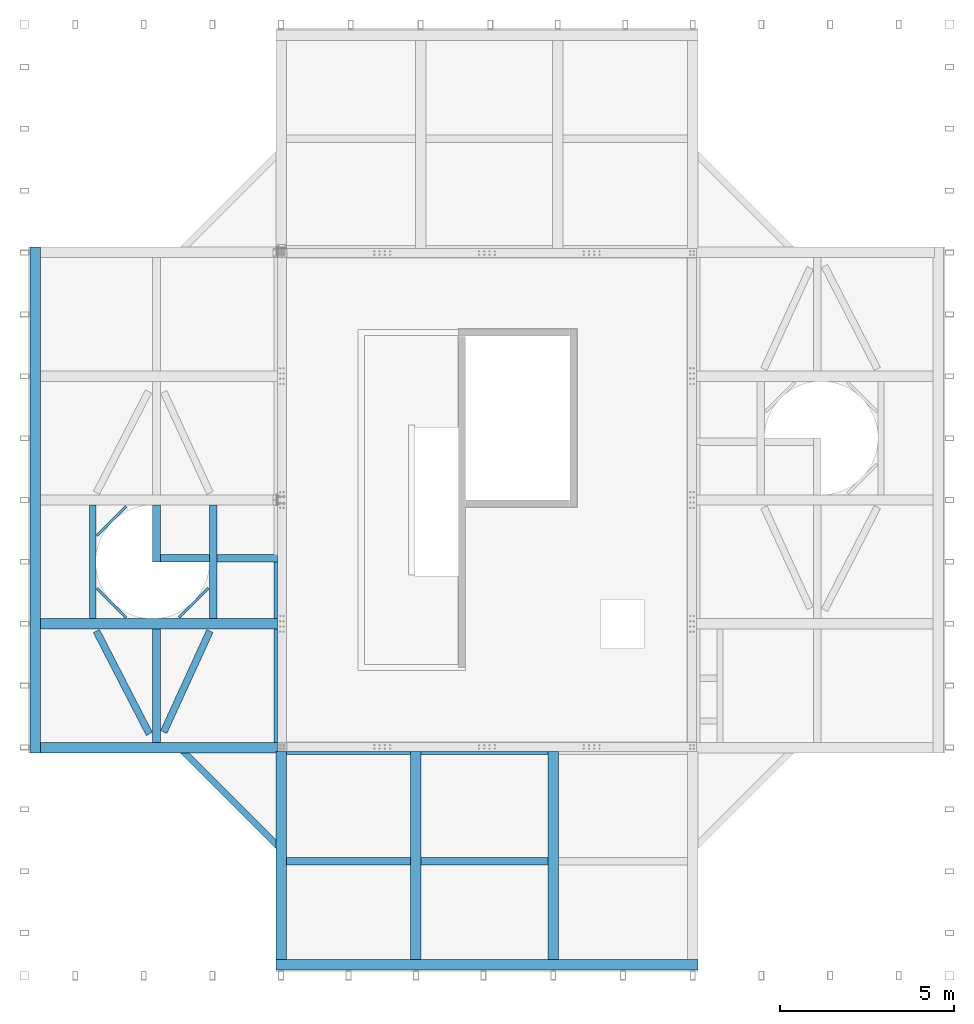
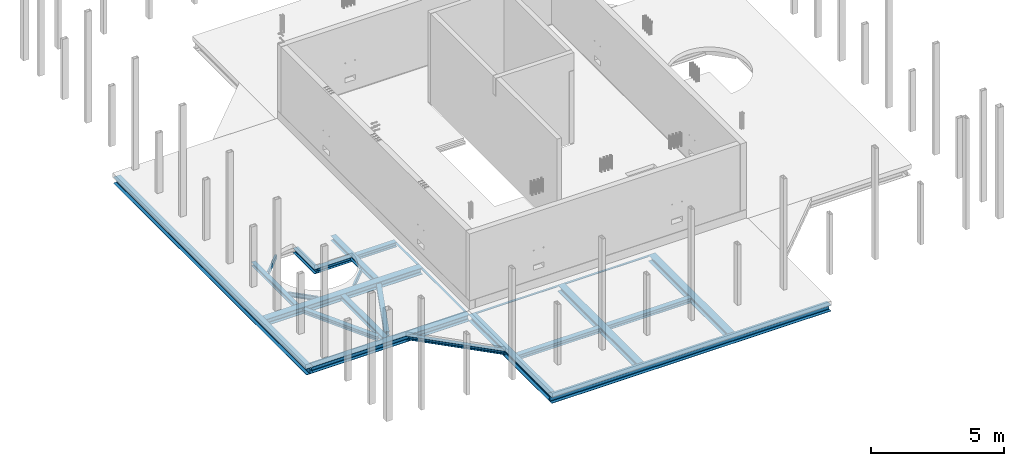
# One storey, part 7 of 16: 25 beams.
"""IFC2X3 building model written with IfcOpenShell, lengths in millimetres."""

from ifc_helpers import new_model, entity, si_unit, converted_unit, derived_unit, direction, frame, frame_2d, origin, place, context, subcontext, project, spatial, polyline, circle_curve, parameter, trimmed, segment, composite_curve, i_section, outline, extrude, clip, halfspace, material, type_object, element, save


model = new_model("IFC2X3")

# Units and contexts
model_context = context("Model", 3, precision=0.01, world=origin(), true_north=direction((6.12303176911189e-17, 1.0)))
body_context = subcontext(model_context, "Body", "Model", "MODEL_VIEW")
ifc_project = project(units=[si_unit("LENGTHUNIT", "METRE", prefix="MILLI"), si_unit("AREAUNIT", "SQUARE_METRE"), si_unit("VOLUMEUNIT", "CUBIC_METRE"), converted_unit("PLANEANGLEUNIT", "DEGREE", entity("IfcRatioMeasure", 0.0174532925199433), si_unit("PLANEANGLEUNIT", "RADIAN"), dimensions=[0, 0, 0, 0, 0, 0, 0]), si_unit("MASSUNIT", "GRAM", prefix="KILO"), derived_unit("MASSDENSITYUNIT", [(si_unit("MASSUNIT", "GRAM", prefix="KILO"), 1), (si_unit("LENGTHUNIT", "METRE"), -3)]), si_unit("TIMEUNIT", "SECOND"), si_unit("FREQUENCYUNIT", "HERTZ"), si_unit("THERMODYNAMICTEMPERATUREUNIT", "DEGREE_CELSIUS"), derived_unit("THERMALTRANSMITTANCEUNIT", [(si_unit("MASSUNIT", "GRAM", prefix="KILO"), 1), (si_unit("THERMODYNAMICTEMPERATUREUNIT", "KELVIN"), -1), (si_unit("TIMEUNIT", "SECOND"), -3)]), derived_unit("VOLUMETRICFLOWRATEUNIT", [(si_unit("LENGTHUNIT", "METRE"), 3), (si_unit("TIMEUNIT", "SECOND"), -1)]), si_unit("ELECTRICCURRENTUNIT", "AMPERE"), si_unit("ELECTRICVOLTAGEUNIT", "VOLT"), si_unit("POWERUNIT", "WATT"), si_unit("FORCEUNIT", "NEWTON", prefix="KILO"), si_unit("ILLUMINANCEUNIT", "LUX"), si_unit("LUMINOUSFLUXUNIT", "LUMEN"), si_unit("LUMINOUSINTENSITYUNIT", "CANDELA"), derived_unit("USERDEFINED", [(si_unit("MASSUNIT", "GRAM", prefix="KILO"), -1), (si_unit("LENGTHUNIT", "METRE"), -2), (si_unit("TIMEUNIT", "SECOND"), 3), (si_unit("LUMINOUSFLUXUNIT", "LUMEN"), 1)]), derived_unit("LINEARVELOCITYUNIT", [(si_unit("LENGTHUNIT", "METRE"), 1), (si_unit("TIMEUNIT", "SECOND"), -1)]), si_unit("PRESSUREUNIT", "PASCAL"), derived_unit("USERDEFINED", [(si_unit("LENGTHUNIT", "METRE"), -2), (si_unit("MASSUNIT", "GRAM", prefix="KILO"), 1), (si_unit("TIMEUNIT", "SECOND"), -2)])], contexts=[model_context])

# Site, building, storey
site_placement = place(None, origin())
site = spatial("IfcSite", under=ifc_project, at=site_placement, Name="Default", CompositionType="ELEMENT")
building_placement = place(site_placement, origin())
building = spatial("IfcBuilding", under=site, at=building_placement, Name="niet gebruiken", CompositionType="ELEMENT")
storey_placement = place(building_placement, frame((0.0, 0.0, 183150.0)))
storey = spatial("IfcBuildingStorey", under=building, at=storey_placement, Name="58 achtenvijftigste verdieping", CompositionType="ELEMENT", Elevation=183150.0)

# Beams
ifc_material = material(Name="NLRS_h2_staal")
beam_type_1 = type_object("IfcBeamType", Name="NLRS_28.11_SF_WPB_stalen ligger HEA_gen:ligger HEA 200", PredefinedType="BEAM")
beam_1_placement = place(storey_placement, frame((130455.0, 13950.0, -570.0), z_axis=(0.0, 0.0, 1.0), x_axis=(0.457206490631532, -0.889360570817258, 0.0)))
element("IfcBeam", 1, at=beam_1_placement, inside=storey, type_object=beam_type_1, material=ifc_material, Name="NLRS_28.11_SF_WPB_stalen ligger HEA_gen:ligger HEA 200", ObjectType="NLRS_28.11_SF_WPB_stalen ligger HEA_gen:ligger HEA 200", context=body_context, shape_type="SweptSolid", body=[
    extrude(i_section(OverallWidth=199.999999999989, OverallDepth=189.999999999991, WebThickness=6.50000000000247, FlangeThickness=9.99999999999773, FilletRadius=17.9999999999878, at=frame_2d((0.0, 1.83746351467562e-11), x_axis=(0.0, 1.0))), frame((232.768952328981, 0.0, -95.0), z_axis=(1.0, 0.0, 0.0), x_axis=(0.0, 0.0, -1.0)), (0.0, 0.0, 1.0), 3313.79396714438),
])
beam_2_placement = place(storey_placement, frame((133905.0, 13950.0, -570.0), z_axis=(0.0, 0.0, 1.0), x_axis=(-0.416213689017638, -0.90926682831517, 0.0)))
element("IfcBeam", 2, at=beam_2_placement, inside=storey, type_object=beam_type_1, material=ifc_material, Name="NLRS_28.11_SF_WPB_stalen ligger HEA_gen:ligger HEA 200", ObjectType="NLRS_28.11_SF_WPB_stalen ligger HEA_gen:ligger HEA 200", context=body_context, shape_type="SweptSolid", body=[
    extrude(i_section(OverallWidth=199.999999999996, OverallDepth=189.999999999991, WebThickness=6.49999999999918, FlangeThickness=9.99999999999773, FilletRadius=17.9999999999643, at=frame_2d((0.0, 3.69055896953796e-11), x_axis=(0.0, 1.0))), frame((223.44272472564, 0.0, -95.0), z_axis=(1.0, 0.0, 0.0), x_axis=(0.0, 0.0, -1.0)), (0.0, 0.0, 1.0), 3184.87253634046),
])
beam_type_2 = type_object("IfcBeamType", Name="NLRS_28.11_SF_WPB_stalen ligger HEA_gen:ligger HEA 220", PredefinedType="BEAM")
beam_3_placement = place(storey_placement, frame((133905.0, 17350.0, -570.0), z_axis=(0.0, 0.0, 1.0), x_axis=(0.0, -1.0, 0.0)))
element("IfcBeam", 3, at=beam_3_placement, inside=storey, type_object=beam_type_2, material=ifc_material, Name="NLRS_28.11_SF_WPB_stalen ligger HEA_gen:ligger HEA 220", ObjectType="NLRS_28.11_SF_WPB_stalen ligger HEA_gen:ligger HEA 220", context=body_context, shape_type="SweptSolid", body=[
    extrude(i_section(OverallWidth=220.000000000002, OverallDepth=209.999999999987, WebThickness=7.00000000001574, FlangeThickness=11.0000000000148, FilletRadius=17.9999999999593, at=frame_2d((-3.46531692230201e-11, -1.73301373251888e-11), x_axis=(0.0, 1.0))), frame((0.0, 0.0, -105.0), z_axis=(1.0, 0.0, 0.0), x_axis=(0.0, 0.0, -1.0)), (0.0, 0.0, 1.0), 3250.00000000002),
])
beam_4_placement = place(storey_placement, frame((132280.0, 17350.0, -570.0), z_axis=(0.0, 0.0, 1.0), x_axis=(0.0, -1.0, 0.0)))
element("IfcBeam", 4, at=beam_4_placement, inside=storey, type_object=beam_type_2, material=ifc_material, Name="NLRS_28.11_SF_WPB_stalen ligger HEA_gen:ligger HEA 220", ObjectType="NLRS_28.11_SF_WPB_stalen ligger HEA_gen:ligger HEA 220", context=body_context, shape_type="SweptSolid", body=[
    extrude(i_section(OverallWidth=220.000000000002, OverallDepth=209.999999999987, WebThickness=7.00000000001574, FlangeThickness=11.0000000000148, FilletRadius=17.9999999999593, at=frame_2d((-3.46531692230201e-11, 1.73301373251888e-11), x_axis=(0.0, 1.0))), frame((0.0, 0.0, -105.0), z_axis=(1.0, 0.0, 0.0), x_axis=(0.0, 0.0, -1.0)), (0.0, 0.0, 1.0), 1625.0),
])
beam_5_placement = place(storey_placement, frame((132390.0, 15835.0, -570.0)))
element("IfcBeam", 5, at=beam_5_placement, inside=storey, type_object=beam_type_2, material=ifc_material, Name="NLRS_28.11_SF_WPB_stalen ligger HEA_gen:ligger HEA 220", ObjectType="NLRS_28.11_SF_WPB_stalen ligger HEA_gen:ligger HEA 220", context=body_context, shape_type="SweptSolid", body=[
    extrude(i_section(OverallWidth=220.000000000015, OverallDepth=209.999999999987, WebThickness=6.99999999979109, FlangeThickness=11.0000000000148, FilletRadius=17.9999999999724, at=frame_2d((-3.46531692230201e-11, -1.08713038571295e-12), x_axis=(0.0, 1.0))), frame((0.0, 0.0, -105.0), z_axis=(1.0, 0.0, 0.0), x_axis=(0.0, 0.0, -1.0)), (0.0, 0.0, 1.0), 1405.00000000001),
])
beam_6_placement = place(storey_placement, frame((134015.0, 15835.0, -570.0)))
element("IfcBeam", 6, at=beam_6_placement, inside=storey, type_object=beam_type_2, material=ifc_material, Name="NLRS_28.11_SF_WPB_stalen ligger HEA_gen:ligger HEA 220", ObjectType="NLRS_28.11_SF_WPB_stalen ligger HEA_gen:ligger HEA 220", context=body_context, shape_type="SweptSolid", body=[
    extrude(i_section(OverallWidth=220.000000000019, OverallDepth=209.999999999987, WebThickness=6.99999999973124, FlangeThickness=11.0000000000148, FilletRadius=17.9999999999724, at=frame_2d((-3.46531692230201e-11, -3.24718030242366e-12), x_axis=(0.0, 1.0))), frame((0.0, 0.0, -105.0), z_axis=(1.0, 0.0, 0.0), x_axis=(0.0, 0.0, -1.0)), (0.0, 0.0, 1.0), 1735.00000000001),
])
beam_7_placement = place(storey_placement, frame((139566.666666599, 7145.0, -570.0), z_axis=(0.0, 0.0, 1.0), x_axis=(-1.0, 0.0, 0.0)))
element("IfcBeam", 7, at=beam_7_placement, inside=storey, type_object=beam_type_2, material=ifc_material, Name="NLRS_28.11_SF_WPB_stalen ligger HEA_gen:ligger HEA 220", ObjectType="NLRS_28.11_SF_WPB_stalen ligger HEA_gen:ligger HEA 220", context=body_context, shape_type="SweptSolid", body=[
    extrude(i_section(OverallWidth=219.999999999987, OverallDepth=209.999999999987, WebThickness=7.00000000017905, FlangeThickness=10.9999999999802, FilletRadius=17.9999999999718, at=frame_2d((-3.46531692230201e-11, -1.08713038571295e-12), x_axis=(0.0, 1.0))), frame((0.0, 0.0, -105.0), z_axis=(1.0, 0.0, 0.0), x_axis=(0.0, 0.0, -1.0)), (0.0, 0.0, 1.0), 3566.66000000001),
])
beam_8_placement = place(storey_placement, frame((132280.0, 13800.0, -570.0), z_axis=(0.0, 0.0, 1.0), x_axis=(0.0, -1.0, 0.0)))
element("IfcBeam", 8, at=beam_8_placement, inside=storey, type_object=beam_type_2, material=ifc_material, Name="NLRS_28.11_SF_WPB_stalen ligger HEA_gen:ligger HEA 220", ObjectType="NLRS_28.11_SF_WPB_stalen ligger HEA_gen:ligger HEA 220", context=body_context, shape_type="SweptSolid", body=[
    extrude(i_section(OverallWidth=219.999999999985, OverallDepth=209.999999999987, WebThickness=7.00000000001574, FlangeThickness=10.9999999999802, FilletRadius=17.9999999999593, at=frame_2d((-3.46531692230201e-11, 1.73301373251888e-11), x_axis=(0.0, 1.0))), frame((0.0, 0.0, -105.0), z_axis=(1.0, 0.0, 0.0), x_axis=(0.0, 0.0, -1.0)), (0.0, 0.0, 1.0), 3250.0),
])
beam_9_placement = place(storey_placement, frame((143500.0, 7145.0, -570.0), z_axis=(0.0, 0.0, 1.0), x_axis=(-1.0, 0.0, 0.0)))
element("IfcBeam", 9, at=beam_9_placement, inside=storey, type_object=beam_type_2, material=ifc_material, Name="NLRS_28.11_SF_WPB_stalen ligger HEA_gen:ligger HEA 220", ObjectType="NLRS_28.11_SF_WPB_stalen ligger HEA_gen:ligger HEA 220", context=body_context, shape_type="SweptSolid", body=[
    extrude(i_section(OverallWidth=219.999999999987, OverallDepth=209.999999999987, WebThickness=7.00000000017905, FlangeThickness=10.9999999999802, FilletRadius=17.9999999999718, at=frame_2d((-3.46531692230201e-11, -1.08713038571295e-12), x_axis=(0.0, 1.0))), frame((0.0, 0.0, -105.0), z_axis=(1.0, 0.0, 0.0), x_axis=(0.0, 0.0, -1.0)), (0.0, 0.0, 1.0), 3633.33000000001),
])
beam_type_3 = type_object("IfcBeamType", Name="NLRS_28.11_SF_WPB_stalen ligger HEA_gen:ligger HEA 300", PredefinedType="BEAM")
beam_10_placement = place(storey_placement, frame((135850.0, 4336.0, -570.0), z_axis=(0.0, 0.0, 1.0), x_axis=(0.0, 1.0, 0.0)))
element("IfcBeam", 10, at=beam_10_placement, inside=storey, type_object=beam_type_3, material=ifc_material, Name="NLRS_28.11_SF_WPB_stalen ligger HEA_gen:ligger HEA 300", ObjectType="NLRS_28.11_SF_WPB_stalen ligger HEA_gen:ligger HEA 300", context=body_context, shape_type="SweptSolid", body=[
    extrude(i_section(OverallWidth=300.000000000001, OverallDepth=289.999999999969, WebThickness=8.50000000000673, FlangeThickness=13.9999999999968, FilletRadius=27.0000000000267, at=frame_2d((-3.46460637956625e-11, 0.0), x_axis=(0.0, 1.0))), frame((0.0, 0.0, -145.0), z_axis=(1.0, 0.0, 0.0), x_axis=(0.0, 0.0, -1.0)), (0.0, 0.0, 1.0), 5964.0),
])
beam_11_placement = place(storey_placement, frame((135750.0, 10400.0, -570.0), z_axis=(0.0, 0.0, 1.0), x_axis=(-1.0, 0.0, 0.0)))
element("IfcBeam", 11, at=beam_11_placement, inside=storey, type_object=beam_type_3, material=ifc_material, Name="NLRS_28.11_SF_WPB_stalen ligger HEA_gen:ligger HEA 300", ObjectType="NLRS_28.11_SF_WPB_stalen ligger HEA_gen:ligger HEA 300", context=body_context, shape_type="SweptSolid", body=[
    extrude(i_section(OverallWidth=300.000000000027, OverallDepth=289.999999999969, WebThickness=8.49999999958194, FlangeThickness=13.9999999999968, FilletRadius=27.0000000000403, at=frame_2d((-3.46602746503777e-11, 0.0), x_axis=(0.0, 1.0))), frame((0.0, 0.0, -145.0), z_axis=(1.0, 0.0, 0.0), x_axis=(0.0, 0.0, -1.0)), (0.0, 0.0, 1.0), 6789.0),
])
beam_12_placement = place(storey_placement, frame((128660.99861853, 24750.0, -570.0), z_axis=(0.0, 0.0, 1.0), x_axis=(0.0, -1.0, 0.0)))
element("IfcBeam", 12, at=beam_12_placement, inside=storey, type_object=beam_type_3, material=ifc_material, Name="NLRS_28.11_SF_WPB_stalen ligger HEA_gen:ligger HEA 300", ObjectType="NLRS_28.11_SF_WPB_stalen ligger HEA_gen:ligger HEA 300", context=body_context, shape_type="SweptSolid", body=[
    extrude(i_section(OverallWidth=300.000000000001, OverallDepth=290.000000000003, WebThickness=8.50000000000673, FlangeThickness=14.0000000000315, FilletRadius=27.0000000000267, at=frame_2d((-3.46460637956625e-11, -3.46602746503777e-11), x_axis=(0.0, 1.0))), frame((0.0, 150.0, -145.0), z_axis=(1.0, 0.0, 0.0), x_axis=(0.0, 0.0, -1.0)), (0.0, 0.0, 1.0), 14499.9999999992),
])
beam_13_placement = place(storey_placement, frame((135700.0, 4035.99977111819, -570.0)))
element("IfcBeam", 13, at=beam_13_placement, inside=storey, type_object=beam_type_3, material=ifc_material, Name="NLRS_28.11_SF_WPB_stalen ligger HEA_gen:ligger HEA 300", ObjectType="NLRS_28.11_SF_WPB_stalen ligger HEA_gen:ligger HEA 300", context=body_context, shape_type="SweptSolid", body=[
    extrude(i_section(OverallWidth=299.999999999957, OverallDepth=290.000000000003, WebThickness=8.50000000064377, FlangeThickness=14.0000000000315, FilletRadius=27.0000000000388, at=frame_2d((-3.46460637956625e-11, 2.70006239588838e-13), x_axis=(0.0, 1.0))), frame((0.0, 150.0, -145.0), z_axis=(1.0, 0.0, 0.0), x_axis=(0.0, 0.0, -1.0)), (0.0, 0.0, 1.0), 12099.9999999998),
])
beam_14_placement = place(storey_placement, frame((139716.666666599, 4336.0, -570.0), z_axis=(0.0, 0.0, 1.0), x_axis=(0.0, 1.0, 0.0)))
element("IfcBeam", 14, at=beam_14_placement, inside=storey, type_object=beam_type_3, material=ifc_material, Name="NLRS_28.11_SF_WPB_stalen ligger HEA_gen:ligger HEA 300", ObjectType="NLRS_28.11_SF_WPB_stalen ligger HEA_gen:ligger HEA 300", context=body_context, shape_type="SweptSolid", body=[
    extrude(i_section(OverallWidth=300.000000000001, OverallDepth=289.999999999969, WebThickness=8.50000000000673, FlangeThickness=13.9999999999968, FilletRadius=27.0000000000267, at=frame_2d((-3.46460637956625e-11, 0.0), x_axis=(0.0, 1.0))), frame((0.0, 0.0, -145.0), z_axis=(1.0, 0.0, 0.0), x_axis=(0.0, 0.0, -1.0)), (0.0, 0.0, 1.0), 5964.0),
])
beam_15_placement = place(storey_placement, frame((143650.0, 4336.0, -570.0), z_axis=(0.0, 0.0, 1.0), x_axis=(0.0, 1.0, 0.0)))
element("IfcBeam", 15, at=beam_15_placement, inside=storey, type_object=beam_type_3, material=ifc_material, Name="NLRS_28.11_SF_WPB_stalen ligger HEA_gen:ligger HEA 300", ObjectType="NLRS_28.11_SF_WPB_stalen ligger HEA_gen:ligger HEA 300", context=body_context, shape_type="SweptSolid", body=[
    extrude(i_section(OverallWidth=300.000000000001, OverallDepth=289.999999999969, WebThickness=8.50000000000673, FlangeThickness=13.9999999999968, FilletRadius=27.0000000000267, at=frame_2d((-3.46460637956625e-11, 1.73230318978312e-11), x_axis=(0.0, 1.0))), frame((0.0, 0.0, -145.0), z_axis=(1.0, 0.0, 0.0), x_axis=(0.0, 0.0, -1.0)), (0.0, 0.0, 1.0), 5964.0),
])
beam_type_4 = type_object("IfcBeamType", Name="NLRS_28.11_SF_WPB_stalen ligger HEB_gen:ligger HEB 300", PredefinedType="BEAM")
beam_16_placement = place(storey_placement, frame((135749.99861853, 13950.0, -570.0), z_axis=(0.0, 0.0, 1.0), x_axis=(-1.0, 0.0, 0.0)))
element("IfcBeam", 16, at=beam_16_placement, inside=storey, type_object=beam_type_4, material=ifc_material, Name="NLRS_28.11_SF_WPB_stalen ligger HEB_gen:ligger HEB 300", ObjectType="NLRS_28.11_SF_WPB_stalen ligger HEB_gen:ligger HEB 300", context=body_context, shape_type="SweptSolid", body=[
    extrude(i_section(OverallWidth=300.000000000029, OverallDepth=300.000000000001, WebThickness=10.9999999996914, FlangeThickness=18.9999999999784, FilletRadius=27.0000000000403, at=frame_2d((0.0, -2.1600499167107e-12), x_axis=(0.0, 1.0))), frame((0.0, 0.0, -150.0), z_axis=(1.0, 0.0, 0.0), x_axis=(0.0, 0.0, -1.0)), (0.0, 0.0, 1.0), 6789.0),
])
beam_type_5 = type_object("IfcBeamType", Name="NLRS_28.11_SF_WPB_stalen ligger HEA_gen:ligger HEA 180", PredefinedType="BEAM")
beam_17_placement = place(storey_placement, frame((136550.315292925, 6786.9639276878, -570.0), z_axis=(0.0, 0.0, 1.0), x_axis=(-0.707106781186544, 0.707106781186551, 0.0)))
element("IfcBeam", 17, at=beam_17_placement, inside=storey, type_object=beam_type_5, material=ifc_material, Name="NLRS_28.11_SF_WPB_stalen ligger HEA_gen:ligger HEA 180", ObjectType="NLRS_28.11_SF_WPB_stalen ligger HEA_gen:ligger HEA 180", context=body_context, shape_type="Clipping", body=[
    clip(clip(extrude(i_section(OverallWidth=180.000000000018, OverallDepth=171.000000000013, WebThickness=6.00000000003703, FlangeThickness=9.50000000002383, FilletRadius=15.0000000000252, at=frame_2d((-3.46531692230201e-11, 1.41682221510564e-11), x_axis=(0.0, 1.0))), frame((1112.52741954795, 0.0, -85.5000000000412), z_axis=(1.0, 0.0, 0.0), x_axis=(0.0, 0.0, -1.0)), (0.0, 0.0, 1.0), 3874.94516090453), halfspace(frame((5294.83272038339, 397.360139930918, 5074.5), z_axis=(0.707106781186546, -0.707106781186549, 0.0), x_axis=(0.0, 0.0, -1.0)), False)), halfspace(frame((-11661.4319733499, 12863.9593928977, 2165.0), z_axis=(-0.707106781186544, -0.707106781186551, 0.0), x_axis=(-0.707106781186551, 0.707106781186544, 0.0)), False)),
])
beam_18_placement = place(storey_placement, frame((130455.0, 17350.0, -570.0), z_axis=(0.0, 0.0, 1.0), x_axis=(0.0, -1.0, 0.0)))
element("IfcBeam", 18, at=beam_18_placement, inside=storey, type_object=beam_type_5, material=ifc_material, Name="NLRS_28.11_SF_WPB_stalen ligger HEA_gen:ligger HEA 180", ObjectType="NLRS_28.11_SF_WPB_stalen ligger HEA_gen:ligger HEA 180", context=body_context, shape_type="SweptSolid", body=[
    extrude(i_section(OverallWidth=179.999999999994, OverallDepth=171.000000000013, WebThickness=5.99999999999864, FlangeThickness=9.49999999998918, FilletRadius=15.0000000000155, at=frame_2d((-3.46460637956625e-11, -1.73301373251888e-11), x_axis=(0.0, 1.0))), frame((0.0, 0.0, -85.5000000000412), z_axis=(1.0, 0.0, 0.0), x_axis=(0.0, 0.0, -1.0)), (0.0, 0.0, 1.0), 3250.0),
])
beam_type_6 = type_object("IfcBeamType", Name="NLRS_28.11_SF_WPB_stalen ligger hoekprofiel gelijkzijdig_gen:ligger gelijzijdig hoekprofiel LEQU_100x100x10", PredefinedType="BEAM")
beam_19_placement = place(storey_placement, frame((135750.0, 15725.0, -570.0), z_axis=(0.0, 0.0, 1.0), x_axis=(0.0, -1.0, 0.0)))
element("IfcBeam", 19, at=beam_19_placement, inside=storey, type_object=beam_type_6, material=ifc_material, Name="NLRS_28.11_SF_WPB_stalen ligger hoekprofiel gelijkzijdig_gen:ligger gelijzijdig hoekprofiel LEQU_100x100x10", ObjectType="NLRS_28.11_SF_WPB_stalen ligger hoekprofiel gelijkzijdig_gen:ligger gelijzijdig hoekprofiel LEQU_100x100x10", context=body_context, shape_type="SweptSolid", body=[
    extrude(outline(composite_curve([segment(polyline([(-37.7777777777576, -62.2222222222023), (-33.7777777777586, -62.2222222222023)]), True, "CONTINUOUS"), segment(trimmed(circle_curve(frame_2d((-33.7777777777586, -56.222222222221), x_axis=(0.0, -1.0)), 5.99999999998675), [parameter(0.0)], [parameter(90.0000000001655)], True, "PARAMETER"), True, "CONTINUOUS"), segment(polyline([(-27.7777777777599, -56.2222222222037), (-27.7777777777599, 15.7777777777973)]), True, "CONTINUOUS"), segment(trimmed(circle_curve(frame_2d((-15.7777777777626, 15.7777777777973), x_axis=(-1.0, 0.0)), 12.0000000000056), [parameter(270.0)], [parameter(0.0)], True, "PARAMETER"), False, "CONTINUOUS"), segment(polyline([(-15.7777777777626, 27.7777777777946), (56.222222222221, 27.7777777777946)]), True, "CONTINUOUS"), segment(trimmed(circle_curve(frame_2d((56.2222222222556, 33.7777777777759), x_axis=(0.0, -1.0)), 5.99999999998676), [parameter(0.0)], [parameter(90.0000000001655)], True, "PARAMETER"), True, "CONTINUOUS"), segment(polyline([(62.2222222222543, 33.7777777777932), (62.2222222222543, 37.7777777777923)]), True, "CONTINUOUS"), segment(polyline([(62.2222222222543, 37.7777777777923), (-37.7777777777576, 37.7777777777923)]), True, "CONTINUOUS"), segment(polyline([(-37.7777777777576, 37.7777777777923), (-37.7777777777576, -62.2222222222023)]), True, "CONTINUOUS")], self_intersect=False)), frame((0.0, -37.7777777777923, -37.7777777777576), z_axis=(1.0, 0.0, 0.0), x_axis=(0.0, 0.0, -1.0)), (0.0, 0.0, 1.0), 1625.0),
])
beam_20_placement = place(storey_placement, frame((135750.0, 13800.0, -570.0), z_axis=(0.0, 0.0, 1.0), x_axis=(0.0, -1.0, 0.0)))
element("IfcBeam", 20, at=beam_20_placement, inside=storey, type_object=beam_type_6, material=ifc_material, Name="NLRS_28.11_SF_WPB_stalen ligger hoekprofiel gelijkzijdig_gen:ligger gelijzijdig hoekprofiel LEQU_100x100x10", ObjectType="NLRS_28.11_SF_WPB_stalen ligger hoekprofiel gelijkzijdig_gen:ligger gelijzijdig hoekprofiel LEQU_100x100x10", context=body_context, shape_type="SweptSolid", body=[
    extrude(outline(composite_curve([segment(polyline([(-37.7777777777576, -62.2222222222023), (-33.7777777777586, -62.2222222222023)]), True, "CONTINUOUS"), segment(trimmed(circle_curve(frame_2d((-33.7777777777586, -56.222222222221), x_axis=(0.0, -1.0)), 5.99999999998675), [parameter(0.0)], [parameter(90.0000000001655)], True, "PARAMETER"), True, "CONTINUOUS"), segment(polyline([(-27.7777777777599, -56.2222222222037), (-27.7777777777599, 15.7777777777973)]), True, "CONTINUOUS"), segment(trimmed(circle_curve(frame_2d((-15.7777777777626, 15.7777777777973), x_axis=(-1.0, 0.0)), 12.0000000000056), [parameter(270.0)], [parameter(0.0)], True, "PARAMETER"), False, "CONTINUOUS"), segment(polyline([(-15.7777777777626, 27.7777777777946), (56.222222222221, 27.7777777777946)]), True, "CONTINUOUS"), segment(trimmed(circle_curve(frame_2d((56.2222222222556, 33.7777777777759), x_axis=(0.0, -1.0)), 5.99999999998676), [parameter(0.0)], [parameter(90.0000000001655)], True, "PARAMETER"), True, "CONTINUOUS"), segment(polyline([(62.2222222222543, 33.7777777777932), (62.2222222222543, 37.7777777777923)]), True, "CONTINUOUS"), segment(polyline([(62.2222222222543, 37.7777777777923), (-37.7777777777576, 37.7777777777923)]), True, "CONTINUOUS"), segment(polyline([(-37.7777777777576, 37.7777777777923), (-37.7777777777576, -62.2222222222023)]), True, "CONTINUOUS")], self_intersect=False)), frame((0.0, -37.7777777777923, -37.7777777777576), z_axis=(1.0, 0.0, 0.0), x_axis=(0.0, 0.0, -1.0)), (0.0, 0.0, 1.0), 3250.0),
])
beam_21_placement = place(storey_placement, frame((136000.0, 10300.0, -570.0)))
element("IfcBeam", 21, at=beam_21_placement, inside=storey, type_object=beam_type_6, material=ifc_material, Name="NLRS_28.11_SF_WPB_stalen ligger hoekprofiel gelijkzijdig_gen:ligger gelijzijdig hoekprofiel LEQU_100x100x10", ObjectType="NLRS_28.11_SF_WPB_stalen ligger hoekprofiel gelijkzijdig_gen:ligger gelijzijdig hoekprofiel LEQU_100x100x10", context=body_context, shape_type="SweptSolid", body=[
    extrude(outline(composite_curve([segment(polyline([(-37.7777777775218, -62.2222222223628), (-33.7777777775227, -62.2222222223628)]), True, "CONTINUOUS"), segment(trimmed(circle_curve(frame_2d((-33.7777777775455, -56.2222222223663), x_axis=(0.0, -1.0)), 5.9999999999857), [parameter(0.0)], [parameter(90.0000000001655)], True, "PARAMETER"), True, "CONTINUOUS"), segment(polyline([(-27.7777777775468, -56.2222222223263), (-27.7777777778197, 15.7777777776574)]), True, "CONTINUOUS"), segment(trimmed(circle_curve(frame_2d((-15.7777777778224, 15.7777777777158), x_axis=(-1.0, 0.0)), 12.000000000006), [parameter(270.000000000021)], [parameter(0.0)], True, "PARAMETER"), False, "CONTINUOUS"), segment(polyline([(-15.7777777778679, 27.7777777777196), (56.2222222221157, 27.7777777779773)]), True, "CONTINUOUS"), segment(trimmed(circle_curve(frame_2d((56.2222222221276, 33.777777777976), x_axis=(0.0, -1.0)), 5.99999999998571), [parameter(0.0)], [parameter(90.0000000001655)], True, "PARAMETER"), True, "CONTINUOUS"), segment(polyline([(62.2222222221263, 33.777777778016), (62.2222222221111, 37.7777777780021)]), True, "CONTINUOUS"), segment(polyline([(62.2222222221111, 37.7777777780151), (-37.7777777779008, 37.777777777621)]), True, "CONTINUOUS"), segment(polyline([(-37.7777777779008, 37.7777777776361), (-37.7777777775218, -62.2222222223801)]), True, "CONTINUOUS")], self_intersect=False)), frame((0.0, -37.7777777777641, -37.7777777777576), z_axis=(1.0, 0.0, 0.0), x_axis=(0.0, 0.0, -1.0)), (0.0, 0.0, 1.0), 3566.66667),
])
beam_22_placement = place(storey_placement, frame((139866.666669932, 10300.0, -570.0)))
element("IfcBeam", 22, at=beam_22_placement, inside=storey, type_object=beam_type_6, material=ifc_material, Name="NLRS_28.11_SF_WPB_stalen ligger hoekprofiel gelijkzijdig_gen:ligger gelijzijdig hoekprofiel LEQU_100x100x10", ObjectType="NLRS_28.11_SF_WPB_stalen ligger hoekprofiel gelijkzijdig_gen:ligger gelijzijdig hoekprofiel LEQU_100x100x10", context=body_context, shape_type="SweptSolid", body=[
    extrude(outline(composite_curve([segment(polyline([(-37.7777777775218, -62.2222222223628), (-33.7777777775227, -62.2222222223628)]), True, "CONTINUOUS"), segment(trimmed(circle_curve(frame_2d((-33.7777777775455, -56.2222222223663), x_axis=(0.0, -1.0)), 5.9999999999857), [parameter(0.0)], [parameter(90.0000000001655)], True, "PARAMETER"), True, "CONTINUOUS"), segment(polyline([(-27.7777777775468, -56.2222222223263), (-27.7777777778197, 15.7777777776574)]), True, "CONTINUOUS"), segment(trimmed(circle_curve(frame_2d((-15.7777777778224, 15.7777777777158), x_axis=(-1.0, 0.0)), 12.000000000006), [parameter(270.000000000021)], [parameter(0.0)], True, "PARAMETER"), False, "CONTINUOUS"), segment(polyline([(-15.7777777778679, 27.7777777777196), (56.2222222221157, 27.7777777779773)]), True, "CONTINUOUS"), segment(trimmed(circle_curve(frame_2d((56.2222222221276, 33.777777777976), x_axis=(0.0, -1.0)), 5.99999999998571), [parameter(0.0)], [parameter(90.0000000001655)], True, "PARAMETER"), True, "CONTINUOUS"), segment(polyline([(62.2222222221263, 33.777777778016), (62.2222222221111, 37.7777777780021)]), True, "CONTINUOUS"), segment(polyline([(62.2222222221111, 37.7777777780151), (-37.7777777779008, 37.777777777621)]), True, "CONTINUOUS"), segment(polyline([(-37.7777777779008, 37.7777777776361), (-37.7777777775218, -62.2222222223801)]), True, "CONTINUOUS")], self_intersect=False)), frame((0.0, -37.777777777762, -37.7777777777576), z_axis=(1.0, 0.0, 0.0), x_axis=(0.0, 0.0, -1.0)), (0.0, 0.0, 1.0), 3633.33333),
])
beam_type_7 = type_object("IfcBeamType", Name="NLRS_28.11_SF_WPB_stalen ligger UNP_gen:ligger UNP 200", PredefinedType="BEAM")
beam_23_placement = place(storey_placement, frame((133905.0, 15161.9029611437, -570.0), z_axis=(0.0, 0.0, 1.0), x_axis=(-0.707106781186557, -0.707106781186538, 0.0)))
element("IfcBeam", 23, at=beam_23_placement, inside=storey, type_object=beam_type_7, material=ifc_material, Name="NLRS_28.11_SF_WPB_stalen ligger UNP_gen:ligger UNP 200", ObjectType="NLRS_28.11_SF_WPB_stalen ligger UNP_gen:ligger UNP 200", context=body_context, shape_type="SweptSolid", body=[
    extrude(outline(composite_curve([segment(polyline([(-100.06239725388, -41.2499999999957), (99.9376027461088, -41.2499999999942)]), True, "CONTINUOUS"), segment(polyline([(99.9376027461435, -41.2499999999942), (99.9376027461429, 33.7500000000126)]), True, "CONTINUOUS"), segment(polyline([(99.9376027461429, 33.7500000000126), (94.8577017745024, 33.7500000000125)]), True, "CONTINUOUS"), segment(trimmed(circle_curve(frame_2d((94.8577017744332, 27.7500000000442), x_axis=(0.0, 1.0)), 5.99999999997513), [parameter(0.0)], [parameter(90.000000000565)], True, "PARAMETER"), True, "CONTINUOUS"), segment(polyline([(88.8577017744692, 27.7500000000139), (85.9054127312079, -21.2499999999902)]), True, "CONTINUOUS"), segment(trimmed(circle_curve(frame_2d((74.4054127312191, -21.2499999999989), x_axis=(1.0, 0.0)), 11.499999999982), [parameter(269.999999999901)], [parameter(0.0)], True, "PARAMETER"), False, "CONTINUOUS"), segment(polyline([(74.4054127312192, -32.7499999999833), (-73.8908606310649, -32.7499999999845)]), True, "CONTINUOUS"), segment(trimmed(circle_curve(frame_2d((-73.8908606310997, -21.2500000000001), x_axis=(0.0, -1.0)), 11.499999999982), [parameter(269.999999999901)], [parameter(0.0)], True, "PARAMETER"), False, "CONTINUOUS"), segment(polyline([(-85.3908606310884, -21.2499999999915), (-89.2474593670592, 27.7500000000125)]), True, "CONTINUOUS"), segment(trimmed(circle_curve(frame_2d((-95.2474593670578, 27.7500000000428), x_axis=(1.0, 0.0)), 5.99999999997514), [parameter(0.0)], [parameter(90.000000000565)], True, "PARAMETER"), True, "CONTINUOUS"), segment(polyline([(-95.2474593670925, 33.7500000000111), (-100.062397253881, 33.7500000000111)]), True, "CONTINUOUS"), segment(polyline([(-100.062397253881, 33.7500000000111), (-100.06239725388, -41.2499999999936)]), True, "CONTINUOUS")], self_intersect=False)), frame((230.563491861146, 41.249999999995, -100.062397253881), z_axis=(1.0, 0.0, 0.0), x_axis=(0.0, 0.0, -1.0)), (0.0, 0.0, 1.0), 1186.19407771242),
])
beam_24_placement = place(storey_placement, frame((130455.0, 15141.9029611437, -570.0), z_axis=(0.0, 0.0, 1.0), x_axis=(0.707106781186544, -0.707106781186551, 0.0)))
element("IfcBeam", 24, at=beam_24_placement, inside=storey, type_object=beam_type_7, material=ifc_material, Name="NLRS_28.11_SF_WPB_stalen ligger UNP_gen:ligger UNP 200", ObjectType="NLRS_28.11_SF_WPB_stalen ligger UNP_gen:ligger UNP 200", context=body_context, shape_type="SweptSolid", body=[
    extrude(outline(composite_curve([segment(polyline([(94.8577017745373, -33.7500000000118), (99.9376027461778, -33.7500000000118)]), True, "CONTINUOUS"), segment(polyline([(99.9376027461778, -33.7500000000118), (99.9376027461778, 41.250000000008)]), True, "CONTINUOUS"), segment(polyline([(99.9376027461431, 41.250000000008), (-100.062397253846, 41.250000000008)]), True, "CONTINUOUS"), segment(polyline([(-100.062397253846, 41.250000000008), (-100.062397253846, -33.7500000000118)]), True, "CONTINUOUS"), segment(polyline([(-100.062397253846, -33.7500000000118), (-95.2474593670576, -33.7500000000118)]), True, "CONTINUOUS"), segment(trimmed(circle_curve(frame_2d((-95.2474593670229, -27.7500000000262), x_axis=(0.0, -1.0)), 5.99999999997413), [parameter(0.0)], [parameter(90.000000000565)], True, "PARAMETER"), True, "CONTINUOUS"), segment(polyline([(-89.2474593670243, -27.7500000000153), (-85.3908606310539, 21.2499999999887)]), True, "CONTINUOUS"), segment(trimmed(circle_curve(frame_2d((-73.8908606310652, 21.2500000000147), x_axis=(-1.0, 0.0)), 11.499999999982), [parameter(269.999999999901)], [parameter(0.0)], True, "PARAMETER"), False, "CONTINUOUS"), segment(polyline([(-73.8908606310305, 32.7499999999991), (74.4054127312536, 32.7499999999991)]), True, "CONTINUOUS"), segment(trimmed(circle_curve(frame_2d((74.4054127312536, 21.2500000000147), x_axis=(0.0, 1.0)), 11.499999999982), [parameter(269.999999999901)], [parameter(0.0)], True, "PARAMETER"), False, "CONTINUOUS"), segment(polyline([(85.9054127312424, 21.2499999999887), (88.8577017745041, -27.7500000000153)]), True, "CONTINUOUS"), segment(trimmed(circle_curve(frame_2d((94.857701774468, -27.7500000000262), x_axis=(-1.0, 0.0)), 5.99999999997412), [parameter(0.0)], [parameter(90.000000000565)], True, "PARAMETER"), True, "CONTINUOUS")], self_intersect=False)), frame((202.27922061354, -41.2500000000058, -100.062397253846), z_axis=(1.0, 0.0, 0.0), x_axis=(0.0, 0.0, -1.0)), (0.0, 0.0, 1.0), 1186.19407771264),
])
beam_25_placement = place(storey_placement, frame((130455.0, 16308.0970388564, -570.0), z_axis=(0.0, 0.0, 1.0), x_axis=(0.70710678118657, 0.707106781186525, 0.0)))
element("IfcBeam", 25, at=beam_25_placement, inside=storey, type_object=beam_type_7, material=ifc_material, Name="NLRS_28.11_SF_WPB_stalen ligger UNP_gen:ligger UNP 200", ObjectType="NLRS_28.11_SF_WPB_stalen ligger UNP_gen:ligger UNP 200", context=body_context, shape_type="SweptSolid", body=[
    extrude(outline(composite_curve([segment(polyline([(-100.062397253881, -41.2500000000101), (99.9376027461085, -41.2500000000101)]), True, "CONTINUOUS"), segment(polyline([(99.9376027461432, -41.2500000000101), (99.9376027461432, 33.750000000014)]), True, "CONTINUOUS"), segment(polyline([(99.9376027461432, 33.750000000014), (94.8577017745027, 33.750000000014)]), True, "CONTINUOUS"), segment(trimmed(circle_curve(frame_2d((94.8577017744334, 27.7500000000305), x_axis=(0.0, 1.0)), 5.99999999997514), [parameter(0.0)], [parameter(90.0000000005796)], True, "PARAMETER"), True, "CONTINUOUS"), segment(polyline([(88.8577017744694, 27.7500000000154), (85.9054127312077, -21.2499999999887)]), True, "CONTINUOUS"), segment(trimmed(circle_curve(frame_2d((74.405412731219, -21.2500000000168), x_axis=(1.0, 0.0)), 11.499999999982), [parameter(269.999999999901)], [parameter(0.0)], True, "PARAMETER"), False, "CONTINUOUS"), segment(polyline([(74.405412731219, -32.7499999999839), (-73.8908606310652, -32.7499999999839)]), True, "CONTINUOUS"), segment(trimmed(circle_curve(frame_2d((-73.8908606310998, -21.2500000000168), x_axis=(0.0, -1.0)), 11.499999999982), [parameter(269.999999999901)], [parameter(0.0)], True, "PARAMETER"), False, "CONTINUOUS"), segment(polyline([(-85.3908606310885, -21.2499999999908), (-89.247459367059, 27.7500000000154)]), True, "CONTINUOUS"), segment(trimmed(circle_curve(frame_2d((-95.2474593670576, 27.7500000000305), x_axis=(1.0, 0.0)), 5.99999999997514), [parameter(0.0)], [parameter(90.0000000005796)], True, "PARAMETER"), True, "CONTINUOUS"), segment(polyline([(-95.2474593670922, 33.750000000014), (-100.062397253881, 33.750000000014)]), True, "CONTINUOUS"), segment(polyline([(-100.062397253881, 33.750000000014), (-100.062397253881, -41.2500000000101)]), True, "CONTINUOUS")], self_intersect=False)), frame((202.27922061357, 41.2500000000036, -100.062397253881), z_axis=(1.0, 0.0, 0.0), x_axis=(0.0, 0.0, -1.0)), (0.0, 0.0, 1.0), 1186.19407771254),
])

save(model, "model.ifc")
